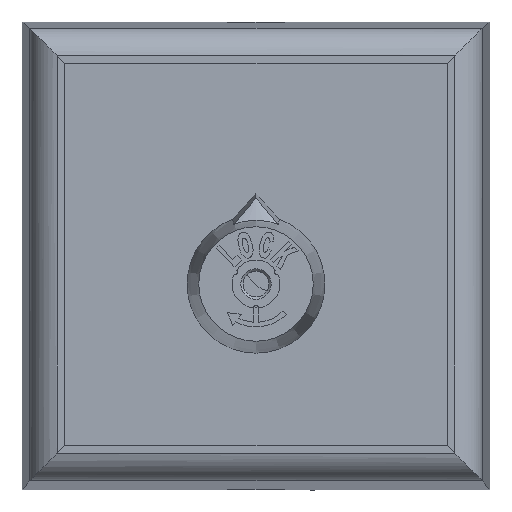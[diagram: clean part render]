
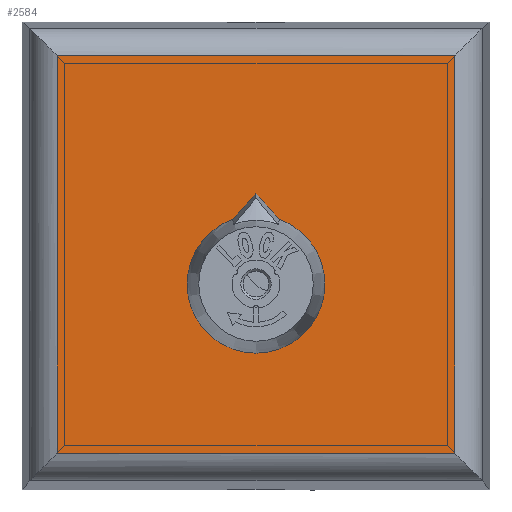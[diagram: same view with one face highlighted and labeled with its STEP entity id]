
A CAD part, top view. The second image highlights one B-rep face of the part: STEP entity #2584.
In plain terms, the highlighted planar face has unit normal (0, 0, 1).
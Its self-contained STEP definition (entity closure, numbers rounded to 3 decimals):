
#2425=CARTESIAN_POINT('',(-1.998,3.002,68.24));
#2426=VERTEX_POINT('',#2425);
#2454=CARTESIAN_POINT('',(0.,5.251,68.24));
#2455=VERTEX_POINT('',#2454);
#2462=CARTESIAN_POINT('',(-1.998,3.002,68.24));
#2463=DIRECTION('',(0.664,0.748,0.));
#2464=VECTOR('',#2463,3.009);
#2465=LINE('',#2462,#2464);
#2466=EDGE_CURVE('',#2426,#2455,#2465,.T.);
#2476=CARTESIAN_POINT('',(1.998,3.002,68.24));
#2477=VERTEX_POINT('',#2476);
#2493=CARTESIAN_POINT('',(0.,5.251,68.24));
#2494=DIRECTION('',(0.664,-0.748,0.));
#2495=VECTOR('',#2494,3.009);
#2496=LINE('',#2493,#2495);
#2497=EDGE_CURVE('',#2455,#2477,#2496,.T.);
#2524=CARTESIAN_POINT('',(0.,-2.55,68.24));
#2525=DIRECTION('',(0.0,0.0,-1.0));
#2526=DIRECTION('',(0.0,1.0,0.0));
#2527=AXIS2_PLACEMENT_3D('',#2524,#2525,#2526);
#2528=CIRCLE('',#2527,5.9);
#2529=EDGE_CURVE('',#2477,#2426,#2528,.T.);
#2540=CARTESIAN_POINT('',(0.,0.,68.24));
#2541=DIRECTION('',(0.0,0.0,-1.0));
#2542=DIRECTION('',(0.0,-1.0,0.0));
#2543=AXIS2_PLACEMENT_3D('',#2540,#2541,#2542);
#2544=PLANE('',#2543);
#2545=CARTESIAN_POINT('',(-17.0,17.,68.24));
#2546=VERTEX_POINT('',#2545);
#2547=CARTESIAN_POINT('',(-17.,-17.0,68.24));
#2548=VERTEX_POINT('',#2547);
#2549=CARTESIAN_POINT('',(-17.0,17.,68.24));
#2550=DIRECTION('',(0.0,-1.0,0.0));
#2551=VECTOR('',#2550,34.0);
#2552=LINE('',#2549,#2551);
#2553=EDGE_CURVE('',#2546,#2548,#2552,.T.);
#2554=ORIENTED_EDGE('',*,*,#2553,.T.);
#2555=CARTESIAN_POINT('',(17.0,-17.,68.24));
#2556=VERTEX_POINT('',#2555);
#2557=CARTESIAN_POINT('',(-17.,-17.0,68.24));
#2558=DIRECTION('',(1.0,0.0,0.0));
#2559=VECTOR('',#2558,34.0);
#2560=LINE('',#2557,#2559);
#2561=EDGE_CURVE('',#2548,#2556,#2560,.T.);
#2562=ORIENTED_EDGE('',*,*,#2561,.T.);
#2563=CARTESIAN_POINT('',(17.,17.0,68.24));
#2564=VERTEX_POINT('',#2563);
#2565=CARTESIAN_POINT('',(17.0,-17.,68.24));
#2566=DIRECTION('',(0.0,1.0,0.0));
#2567=VECTOR('',#2566,34.0);
#2568=LINE('',#2565,#2567);
#2569=EDGE_CURVE('',#2556,#2564,#2568,.T.);
#2570=ORIENTED_EDGE('',*,*,#2569,.T.);
#2571=CARTESIAN_POINT('',(17.,17.0,68.24));
#2572=DIRECTION('',(-1.0,0.0,0.0));
#2573=VECTOR('',#2572,34.0);
#2574=LINE('',#2571,#2573);
#2575=EDGE_CURVE('',#2564,#2546,#2574,.T.);
#2576=ORIENTED_EDGE('',*,*,#2575,.T.);
#2577=EDGE_LOOP('',(#2554,#2562,#2570,#2576));
#2578=FACE_OUTER_BOUND('',#2577,.T.);
#2579=ORIENTED_EDGE('',*,*,#2466,.T.);
#2580=ORIENTED_EDGE('',*,*,#2497,.T.);
#2581=ORIENTED_EDGE('',*,*,#2529,.T.);
#2582=EDGE_LOOP('',(#2579,#2580,#2581));
#2583=FACE_BOUND('',#2582,.T.);
#2584=ADVANCED_FACE('',(#2578,#2583),#2544,.F.);
